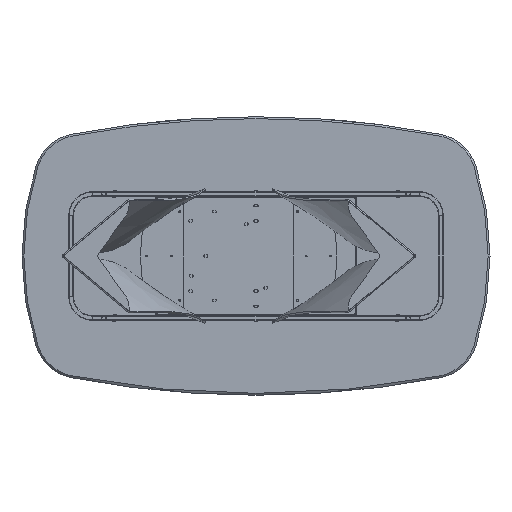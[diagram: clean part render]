
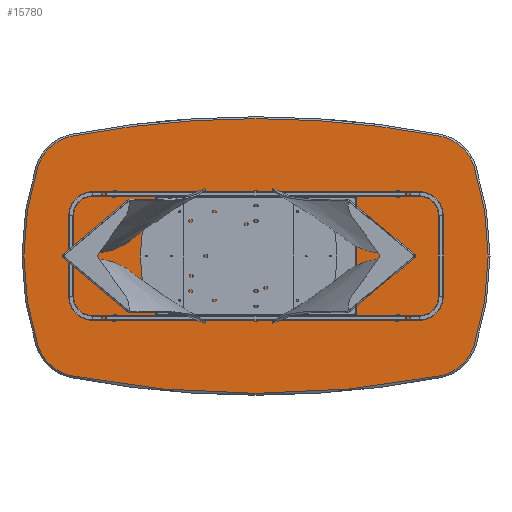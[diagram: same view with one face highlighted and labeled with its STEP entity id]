
A CAD part, front view. The second image highlights one B-rep face of the part: STEP entity #15780.
In plain terms, the highlighted planar face has unit normal (0, -1, 0).
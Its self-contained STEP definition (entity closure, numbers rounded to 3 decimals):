
#380 = CARTESIAN_POINT ( 'NONE',  ( -260., 0., 0. ) ) ;
#449 = VERTEX_POINT ( 'NONE', #14138 ) ;
#919 = DIRECTION ( 'NONE',  ( 0., 0., 1. ) ) ;
#983 = CIRCLE ( 'NONE', #10322, 192. ) ;
#1000 = CARTESIAN_POINT ( 'NONE',  ( 260., 0., 0. ) ) ;
#1163 = EDGE_CURVE ( 'NONE', #17735, #5280, #19651, .T. ) ;
#1565 = AXIS2_PLACEMENT_3D ( 'NONE', #2444, #2679, #9570 ) ;
#2128 = AXIS2_PLACEMENT_3D ( 'NONE', #18944, #18825, #4777 ) ;
#2355 = AXIS2_PLACEMENT_3D ( 'NONE', #1000, #6480, #18542 ) ;
#2364 = CIRCLE ( 'NONE', #9844, 192. ) ;
#2444 = CARTESIAN_POINT ( 'NONE',  ( -130., 0., 1802.5 ) ) ;
#2531 = EDGE_CURVE ( 'NONE', #21280, #22735, #9582, .T. ) ;
#2679 = DIRECTION ( 'NONE',  ( 0., 1., 0. ) ) ;
#2932 = CARTESIAN_POINT ( 'NONE',  ( 749.201, 0., 324.211 ) ) ;
#3691 = VERTEX_POINT ( 'NONE', #6373 ) ;
#3933 = CARTESIAN_POINT ( 'NONE',  ( 0., 0., 3605. ) ) ;
#4114 = CARTESIAN_POINT ( 'NONE',  ( -932., 0., -382.936 ) ) ;
#4237 = AXIS2_PLACEMENT_3D ( 'NONE', #20999, #22884, #6732 ) ;
#4777 = DIRECTION ( 'NONE',  ( 0., 0., 1. ) ) ;
#5036 = EDGE_CURVE ( 'NONE', #8192, #17886, #2364, .T. ) ;
#5135 = EDGE_CURVE ( 'NONE', #449, #20251, #18094, .T. ) ;
#5280 = VERTEX_POINT ( 'NONE', #9408 ) ;
#5395 = DIRECTION ( 'NONE',  ( 0., 0., 1. ) ) ;
#5893 = AXIS2_PLACEMENT_3D ( 'NONE', #3933, #12718, #14479 ) ;
#6373 = CARTESIAN_POINT ( 'NONE',  ( 932., 0., 382.936 ) ) ;
#6480 = DIRECTION ( 'NONE',  ( 0., -1., 0. ) ) ;
#6732 = DIRECTION ( 'NONE',  ( 0., 0., 1. ) ) ;
#6761 = ORIENTED_EDGE ( 'NONE', *, *, #5036, .T. ) ;
#6769 = CARTESIAN_POINT ( 'NONE',  ( -932., 0., 382.936 ) ) ;
#6944 = CARTESIAN_POINT ( 'NONE',  ( 785.163, 0., 512.813 ) ) ;
#7685 = FACE_OUTER_BOUND ( 'NONE', #13572, .T. ) ;
#7835 = ORIENTED_EDGE ( 'NONE', *, *, #18968, .T. ) ;
#8186 = DIRECTION ( 'NONE',  ( 0., -1., 0. ) ) ;
#8192 = VERTEX_POINT ( 'NONE', #12763 ) ;
#8921 = CIRCLE ( 'NONE', #21977, 1252. ) ;
#9323 = ORIENTED_EDGE ( 'NONE', *, *, #19679, .T. ) ;
#9408 = CARTESIAN_POINT ( 'NONE',  ( -785.163, 0., -512.813 ) ) ;
#9570 = DIRECTION ( 'NONE',  ( 0., 0., 1. ) ) ;
#9582 = CIRCLE ( 'NONE', #2128, 4192. ) ;
#9844 = AXIS2_PLACEMENT_3D ( 'NONE', #19041, #21128, #17745 ) ;
#10150 = CARTESIAN_POINT ( 'NONE',  ( 0., 0., -3605. ) ) ;
#10322 = AXIS2_PLACEMENT_3D ( 'NONE', #2932, #8186, #22456 ) ;
#10571 = AXIS2_PLACEMENT_3D ( 'NONE', #10150, #18928, #919 ) ;
#10726 = EDGE_CURVE ( 'NONE', #5280, #8192, #21228, .T. ) ;
#10859 = ORIENTED_EDGE ( 'NONE', *, *, #2531, .T. ) ;
#10916 = DIRECTION ( 'NONE',  ( 0., -1., 0. ) ) ;
#11137 = ORIENTED_EDGE ( 'NONE', *, *, #5135, .T. ) ;
#11202 = EDGE_CURVE ( 'NONE', #17886, #3691, #8921, .T. ) ;
#11335 = CARTESIAN_POINT ( 'NONE',  ( 0., 0., 587. ) ) ;
#11388 = CARTESIAN_POINT ( 'NONE',  ( -749.201, 0., -324.211 ) ) ;
#12718 = DIRECTION ( 'NONE',  ( 0., -1., 0. ) ) ;
#12763 = CARTESIAN_POINT ( 'NONE',  ( 785.163, 0., -512.813 ) ) ;
#13572 = EDGE_LOOP ( 'NONE', ( #18736, #22279, #6761, #17365, #18741, #10859, #7835, #11137, #9323 ) ) ;
#14138 = CARTESIAN_POINT ( 'NONE',  ( -785.163, 0., 512.813 ) ) ;
#14479 = DIRECTION ( 'NONE',  ( 0., 0., 1. ) ) ;
#14675 = DIRECTION ( 'NONE',  ( 0., 0., 1. ) ) ;
#15780 = ADVANCED_FACE ( 'NONE', ( #7685 ), #18357, .F. ) ;
#17365 = ORIENTED_EDGE ( 'NONE', *, *, #11202, .T. ) ;
#17735 = VERTEX_POINT ( 'NONE', #4114 ) ;
#17745 = DIRECTION ( 'NONE',  ( 0., 0., 1. ) ) ;
#17886 = VERTEX_POINT ( 'NONE', #20959 ) ;
#18094 = CIRCLE ( 'NONE', #4237, 192. ) ;
#18357 = PLANE ( 'NONE',  #1565 ) ;
#18418 = DIRECTION ( 'NONE',  ( 0., -1., 0. ) ) ;
#18542 = DIRECTION ( 'NONE',  ( 0., 0., 1. ) ) ;
#18736 = ORIENTED_EDGE ( 'NONE', *, *, #1163, .T. ) ;
#18741 = ORIENTED_EDGE ( 'NONE', *, *, #22295, .T. ) ;
#18825 = DIRECTION ( 'NONE',  ( 0., -1., 0. ) ) ;
#18928 = DIRECTION ( 'NONE',  ( 0., -1., 0. ) ) ;
#18944 = CARTESIAN_POINT ( 'NONE',  ( 0., 0., -3605. ) ) ;
#18968 = EDGE_CURVE ( 'NONE', #22735, #449, #21757, .T. ) ;
#19041 = CARTESIAN_POINT ( 'NONE',  ( 749.201, 0., -324.211 ) ) ;
#19651 = CIRCLE ( 'NONE', #22628, 192. ) ;
#19679 = EDGE_CURVE ( 'NONE', #20251, #17735, #20288, .T. ) ;
#20251 = VERTEX_POINT ( 'NONE', #6769 ) ;
#20288 = CIRCLE ( 'NONE', #2355, 1252. ) ;
#20959 = CARTESIAN_POINT ( 'NONE',  ( 932., 0., -382.936 ) ) ;
#20999 = CARTESIAN_POINT ( 'NONE',  ( -749.201, 0., 324.211 ) ) ;
#21128 = DIRECTION ( 'NONE',  ( 0., -1., 0. ) ) ;
#21228 = CIRCLE ( 'NONE', #5893, 4192. ) ;
#21280 = VERTEX_POINT ( 'NONE', #6944 ) ;
#21757 = CIRCLE ( 'NONE', #10571, 4192. ) ;
#21977 = AXIS2_PLACEMENT_3D ( 'NONE', #380, #10916, #5395 ) ;
#22279 = ORIENTED_EDGE ( 'NONE', *, *, #10726, .T. ) ;
#22295 = EDGE_CURVE ( 'NONE', #3691, #21280, #983, .T. ) ;
#22456 = DIRECTION ( 'NONE',  ( 0., 0., 1. ) ) ;
#22628 = AXIS2_PLACEMENT_3D ( 'NONE', #11388, #18418, #14675 ) ;
#22735 = VERTEX_POINT ( 'NONE', #11335 ) ;
#22884 = DIRECTION ( 'NONE',  ( 0., -1., 0. ) ) ;
